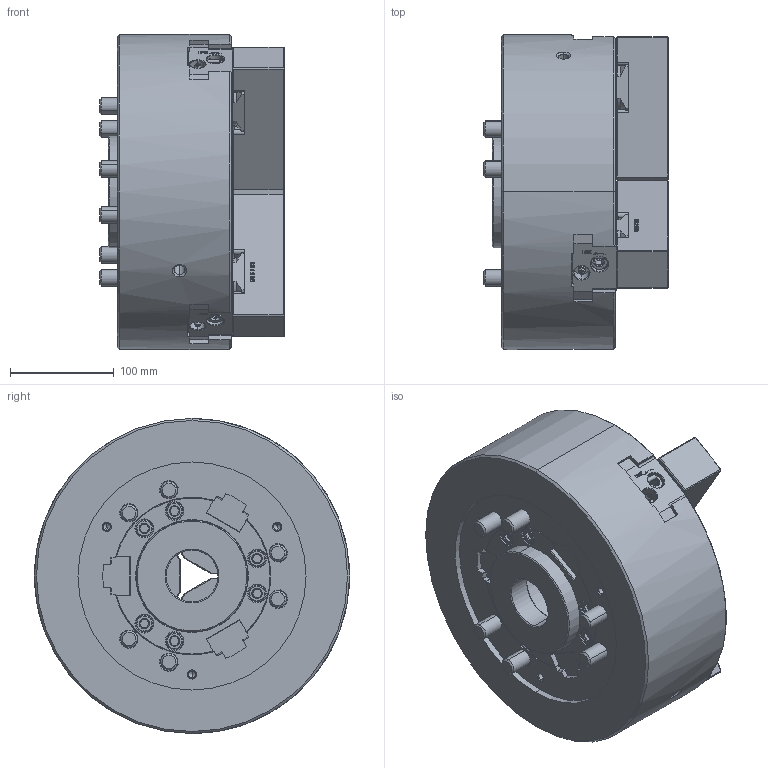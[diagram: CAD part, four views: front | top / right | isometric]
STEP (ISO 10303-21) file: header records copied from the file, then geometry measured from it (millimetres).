
FILE_DESCRIPTION (( 'STEP AP214' ), '1' );
FILE_NAME ('DT1_QB312_OUTSIDE_VIEW_OC.STEP', '2025-12-05T07:18:04', ( '' ), ( '' ), 'SwSTEP 2.0', 'SolidWorks 2022', '' );
FILE_SCHEMA (( 'AUTOMOTIVE_DESIGN' ));
Length unit declared in the file: millimetre
Products named in the file (7): DT1_QB312_DRAWNUT^DT1_QB312; DT1_QB312_COVER^DT1_QB312; DT1_QB312_M16x110^DT1_QB312; DT1_QB312_BASE^DT1_QB312; DT1_QB312_SOFTJAW^DT1_QB312; DT1_QB312_OUTSIDE_VIEW_OC; DT1_QB312_M6x10^DT1_QB312
Assembly tree (15 placements, depth 2):
  DT1_QB312_OUTSIDE_VIEW_OC
    DT1_QB312_SOFTJAW^DT1_QB312  x3
    DT1_QB312_DRAWNUT^DT1_QB312
    DT1_QB312_COVER^DT1_QB312
    DT1_QB312_M6x10^DT1_QB312  x3
    DT1_QB312_M16x110^DT1_QB312  x6
    DT1_QB312_BASE^DT1_QB312
Bounding box: 178 x 304 x 304 mm (x, y, z)
Volume: 7983969.6 mm3; surface area: 566643.1 mm2
Topology: 15 solids, 18 shells, 2610 faces, 6785 edges, 4349 vertices
Faces by surface type: plane 1211, bspline 482, cylinder 433, cone 406, torus 66, sphere 12
Entity records: 75904 total; most frequent: CARTESIAN_POINT 27822, ORIENTED_EDGE 10554, DIRECTION 8745, EDGE_CURVE 5277, VERTEX_POINT 3412, AXIS2_PLACEMENT_3D 2945, LINE 2855, VECTOR 2855
